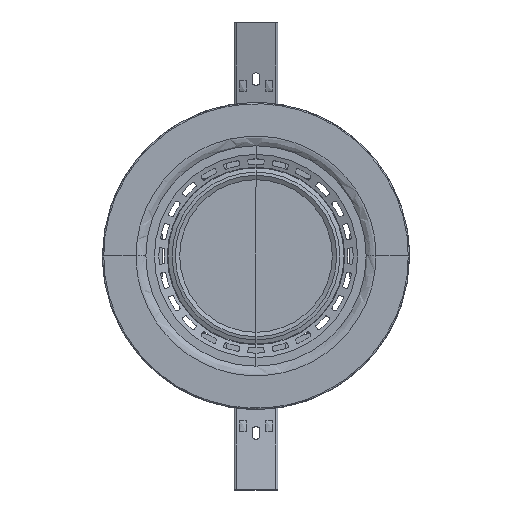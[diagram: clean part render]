
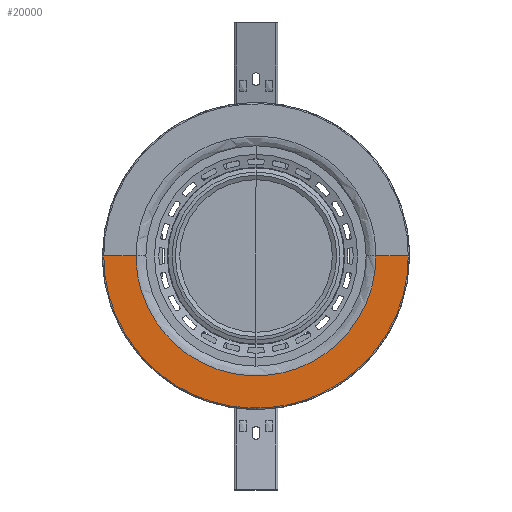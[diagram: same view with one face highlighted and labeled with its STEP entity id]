
A CAD part, top view. The second image highlights one B-rep face of the part: STEP entity #20000.
In plain terms, the highlighted planar face has unit normal (0, 0, 1).
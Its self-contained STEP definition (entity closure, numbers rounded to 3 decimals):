
#575=B_SPLINE_CURVE_WITH_KNOTS('',3,(#30532,#30533,#30534,#30535,#30536,
#30537,#30538,#30539,#30540,#30541),.UNSPECIFIED.,.F.,.F.,(4,1,1,1,1,1,
1,4),(0.,0.143,0.286,0.429,0.571,
0.714,0.857,1.),.UNSPECIFIED.);
#579=B_SPLINE_CURVE_WITH_KNOTS('',3,(#30674,#30675,#30676,#30677),
 .UNSPECIFIED.,.F.,.F.,(4,4),(0.,0.125),.UNSPECIFIED.);
#580=B_SPLINE_CURVE_WITH_KNOTS('',3,(#30682,#30683,#30684,#30685),
 .UNSPECIFIED.,.F.,.F.,(4,4),(0.875,1.),.UNSPECIFIED.);
#581=B_SPLINE_CURVE_WITH_KNOTS('',3,(#30687,#30688,#30689,#30690),
 .UNSPECIFIED.,.F.,.F.,(4,4),(0.75,0.875),.UNSPECIFIED.);
#582=B_SPLINE_CURVE_WITH_KNOTS('',3,(#30692,#30693,#30694,#30695,#30696,
#30697,#30698),.UNSPECIFIED.,.F.,.F.,(4,1,1,1,4),(0.25,0.375,0.5,0.625,
0.75),.UNSPECIFIED.);
#583=B_SPLINE_CURVE_WITH_KNOTS('',3,(#30699,#30700,#30701,#30702),
 .UNSPECIFIED.,.F.,.F.,(4,4),(0.125,0.25),.UNSPECIFIED.);
#2670=FACE_OUTER_BOUND('',#3938,.T.);
#3938=EDGE_LOOP('',(#13584,#13585,#13586,#13587,#13588,#13589,#13590,#13591));
#5352=LINE('',#30678,#6818);
#5353=LINE('',#30680,#6819);
#6818=VECTOR('',#24039,304.8);
#6819=VECTOR('',#24040,304.8);
#8288=VERTEX_POINT('',#30530);
#8289=VERTEX_POINT('',#30531);
#8294=VERTEX_POINT('',#30672);
#8295=VERTEX_POINT('',#30673);
#8296=VERTEX_POINT('',#30679);
#8297=VERTEX_POINT('',#30681);
#8298=VERTEX_POINT('',#30686);
#8299=VERTEX_POINT('',#30691);
#10308=EDGE_CURVE('',#8288,#8289,#575,.T.);
#10326=EDGE_CURVE('',#8294,#8295,#579,.T.);
#10327=EDGE_CURVE('',#8288,#8294,#5352,.T.);
#10328=EDGE_CURVE('',#8296,#8289,#5353,.T.);
#10329=EDGE_CURVE('',#8297,#8296,#580,.T.);
#10330=EDGE_CURVE('',#8298,#8297,#581,.T.);
#10331=EDGE_CURVE('',#8299,#8298,#582,.T.);
#10332=EDGE_CURVE('',#8295,#8299,#583,.T.);
#13584=ORIENTED_EDGE('',*,*,#10326,.F.);
#13585=ORIENTED_EDGE('',*,*,#10327,.F.);
#13586=ORIENTED_EDGE('',*,*,#10308,.T.);
#13587=ORIENTED_EDGE('',*,*,#10328,.F.);
#13588=ORIENTED_EDGE('',*,*,#10329,.F.);
#13589=ORIENTED_EDGE('',*,*,#10330,.F.);
#13590=ORIENTED_EDGE('',*,*,#10331,.F.);
#13591=ORIENTED_EDGE('',*,*,#10332,.F.);
#19392=PLANE('',#21396);
#20000=ADVANCED_FACE('',(#2670),#19392,.T.);
#21396=AXIS2_PLACEMENT_3D('',#30671,#24037,#24038);
#24037=DIRECTION('center_axis',(0.,0.,1.));
#24038=DIRECTION('ref_axis',(1.,0.,0.));
#24039=DIRECTION('',(1.,0.,0.));
#24040=DIRECTION('',(1.,0.,0.));
#30530=CARTESIAN_POINT('',(54.712,0.,2.688));
#30531=CARTESIAN_POINT('',(-54.712,0.,2.688));
#30532=CARTESIAN_POINT('Ctrl Pts',(54.712,0.,
2.688));
#30533=CARTESIAN_POINT('Ctrl Pts',(54.832,-8.241,2.688));
#30534=CARTESIAN_POINT('Ctrl Pts',(50.921,-24.522,2.688));
#30535=CARTESIAN_POINT('Ctrl Pts',(35.292,-44.243,2.688));
#30536=CARTESIAN_POINT('Ctrl Pts',(12.585,-55.16,2.688));
#30537=CARTESIAN_POINT('Ctrl Pts',(-12.585,-55.16,2.688));
#30538=CARTESIAN_POINT('Ctrl Pts',(-35.292,-44.243,2.688));
#30539=CARTESIAN_POINT('Ctrl Pts',(-50.921,-24.522,2.688));
#30540=CARTESIAN_POINT('Ctrl Pts',(-54.832,-8.241,
2.688));
#30541=CARTESIAN_POINT('Ctrl Pts',(-54.712,0.,
2.688));
#30671=CARTESIAN_POINT('Origin',(0.,0.,
2.688));
#30672=CARTESIAN_POINT('',(69.5,0.,2.688));
#30673=CARTESIAN_POINT('',(64.21,-26.597,2.688));
#30674=CARTESIAN_POINT('Ctrl Pts',(69.5,0.,
2.688));
#30675=CARTESIAN_POINT('Ctrl Pts',(69.592,-9.134,2.688));
#30676=CARTESIAN_POINT('Ctrl Pts',(67.715,-18.203,2.688));
#30677=CARTESIAN_POINT('Ctrl Pts',(64.21,-26.597,2.688));
#30678=CARTESIAN_POINT('',(54.712,0.,2.688));
#30679=CARTESIAN_POINT('',(-69.5,0.,2.688));
#30680=CARTESIAN_POINT('',(-69.5,0.,2.688));
#30681=CARTESIAN_POINT('',(-64.21,-26.597,2.688));
#30682=CARTESIAN_POINT('Ctrl Pts',(-64.21,-26.597,
2.688));
#30683=CARTESIAN_POINT('Ctrl Pts',(-67.715,-18.203,
2.688));
#30684=CARTESIAN_POINT('Ctrl Pts',(-69.592,-9.134,
2.688));
#30685=CARTESIAN_POINT('Ctrl Pts',(-69.5,0.,
2.688));
#30686=CARTESIAN_POINT('',(-49.144,-49.144,2.688));
#30687=CARTESIAN_POINT('Ctrl Pts',(-49.144,-49.144,
2.688));
#30688=CARTESIAN_POINT('Ctrl Pts',(-55.569,-42.709,
2.688));
#30689=CARTESIAN_POINT('Ctrl Pts',(-60.704,-34.99,
2.688));
#30690=CARTESIAN_POINT('Ctrl Pts',(-64.21,-26.597,
2.688));
#30691=CARTESIAN_POINT('',(49.144,-49.144,2.688));
#30692=CARTESIAN_POINT('Ctrl Pts',(49.144,-49.144,2.688));
#30693=CARTESIAN_POINT('Ctrl Pts',(42.719,-55.579,2.688));
#30694=CARTESIAN_POINT('Ctrl Pts',(27.286,-65.88,2.688));
#30695=CARTESIAN_POINT('Ctrl Pts',(0.,-71.31,
2.688));
#30696=CARTESIAN_POINT('Ctrl Pts',(-27.286,-65.88,
2.688));
#30697=CARTESIAN_POINT('Ctrl Pts',(-42.719,-55.579,
2.688));
#30698=CARTESIAN_POINT('Ctrl Pts',(-49.144,-49.144,
2.688));
#30699=CARTESIAN_POINT('Ctrl Pts',(64.21,-26.597,2.688));
#30700=CARTESIAN_POINT('Ctrl Pts',(60.704,-34.99,2.688));
#30701=CARTESIAN_POINT('Ctrl Pts',(55.569,-42.709,2.688));
#30702=CARTESIAN_POINT('Ctrl Pts',(49.144,-49.144,2.688));
